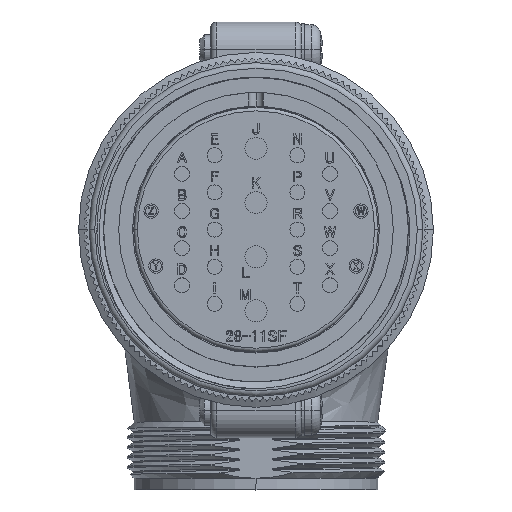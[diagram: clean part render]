
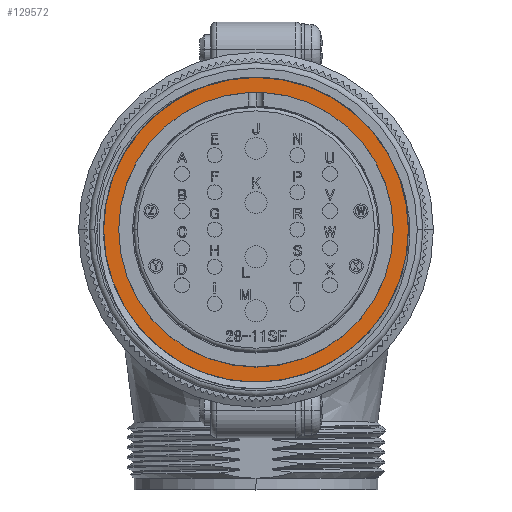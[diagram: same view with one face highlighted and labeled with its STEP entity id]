
A CAD part, top view. The second image highlights one B-rep face of the part: STEP entity #129572.
In plain terms, the highlighted planar face has unit normal (0, 0, 1).
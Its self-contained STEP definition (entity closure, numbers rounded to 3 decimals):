
#428 = VERTEX_POINT ( 'NONE', #27623 ) ;
#5711 = CIRCLE ( 'NONE', #85130, 21.45 ) ;
#8644 = DIRECTION ( 'NONE',  ( -1., 0., 0. ) ) ;
#9525 = CIRCLE ( 'NONE', #57147, 19.325 ) ;
#11448 = EDGE_CURVE ( 'NONE', #39384, #96941, #5711, .T. ) ;
#16940 = DIRECTION ( 'NONE',  ( 0., 0., 1. ) ) ;
#17156 = ORIENTED_EDGE ( 'NONE', *, *, #126451, .T. ) ;
#19012 = CARTESIAN_POINT ( 'NONE',  ( 0., 0., -18.25 ) ) ;
#20746 = EDGE_LOOP ( 'NONE', ( #17156, #58847 ) ) ;
#22741 = ORIENTED_EDGE ( 'NONE', *, *, #143791, .F. ) ;
#27623 = CARTESIAN_POINT ( 'NONE',  ( -19.325, 0., -18.25 ) ) ;
#30836 = DIRECTION ( 'NONE',  ( 1., 0., 0. ) ) ;
#34005 = CIRCLE ( 'NONE', #119699, 19.325 ) ;
#35399 = CARTESIAN_POINT ( 'NONE',  ( 21.45, 0., -18.25 ) ) ;
#39384 = VERTEX_POINT ( 'NONE', #109410 ) ;
#41329 = EDGE_CURVE ( 'NONE', #428, #82417, #9525, .T. ) ;
#43776 = PLANE ( 'NONE',  #122483 ) ;
#55691 = CARTESIAN_POINT ( 'NONE',  ( 0., 19.325, -18.25 ) ) ;
#57147 = AXIS2_PLACEMENT_3D ( 'NONE', #87691, #16940, #99619 ) ;
#58649 = DIRECTION ( 'NONE',  ( 0., 0., 1. ) ) ;
#58847 = ORIENTED_EDGE ( 'NONE', *, *, #11448, .T. ) ;
#65856 = CARTESIAN_POINT ( 'NONE',  ( 0., 0., -18.25 ) ) ;
#74087 = FACE_BOUND ( 'NONE', #103039, .T. ) ;
#77734 = DIRECTION ( 'NONE',  ( 1., 0., 0. ) ) ;
#79386 = DIRECTION ( 'NONE',  ( 0., 0., -1. ) ) ;
#82417 = VERTEX_POINT ( 'NONE', #145068 ) ;
#85130 = AXIS2_PLACEMENT_3D ( 'NONE', #19012, #101749, #30836 ) ;
#87691 = CARTESIAN_POINT ( 'NONE',  ( 0., 0., -18.25 ) ) ;
#96941 = VERTEX_POINT ( 'NONE', #35399 ) ;
#99619 = DIRECTION ( 'NONE',  ( 1., 0., 0. ) ) ;
#101749 = DIRECTION ( 'NONE',  ( 0., 0., 1. ) ) ;
#103039 = EDGE_LOOP ( 'NONE', ( #22741, #108687 ) ) ;
#108687 = ORIENTED_EDGE ( 'NONE', *, *, #41329, .F. ) ;
#109410 = CARTESIAN_POINT ( 'NONE',  ( -21.45, 0., -18.25 ) ) ;
#112737 = CIRCLE ( 'NONE', #115190, 21.45 ) ;
#115190 = AXIS2_PLACEMENT_3D ( 'NONE', #65856, #148673, #77734 ) ;
#119699 = AXIS2_PLACEMENT_3D ( 'NONE', #129540, #58649, #141440 ) ;
#122483 = AXIS2_PLACEMENT_3D ( 'NONE', #55691, #79386, #8644 ) ;
#126451 = EDGE_CURVE ( 'NONE', #96941, #39384, #112737, .T. ) ;
#129540 = CARTESIAN_POINT ( 'NONE',  ( 0., 0., -18.25 ) ) ;
#129572 = ADVANCED_FACE ( 'NONE', ( #74087, #133418 ), #43776, .F. ) ;
#133418 = FACE_OUTER_BOUND ( 'NONE', #20746, .T. ) ;
#141440 = DIRECTION ( 'NONE',  ( 1., 0., 0. ) ) ;
#143791 = EDGE_CURVE ( 'NONE', #82417, #428, #34005, .T. ) ;
#145068 = CARTESIAN_POINT ( 'NONE',  ( 19.325, 0., -18.25 ) ) ;
#148673 = DIRECTION ( 'NONE',  ( 0., 0., 1. ) ) ;
